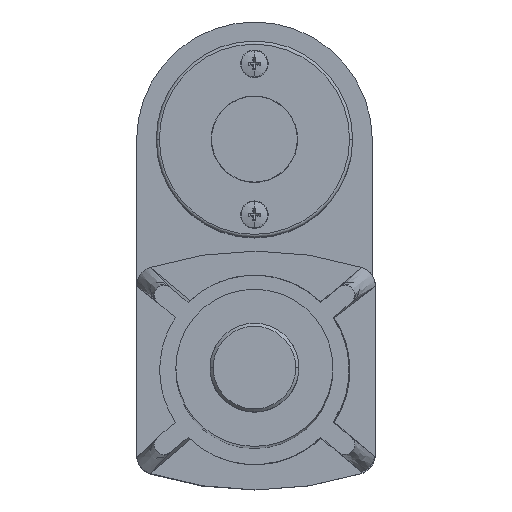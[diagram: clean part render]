
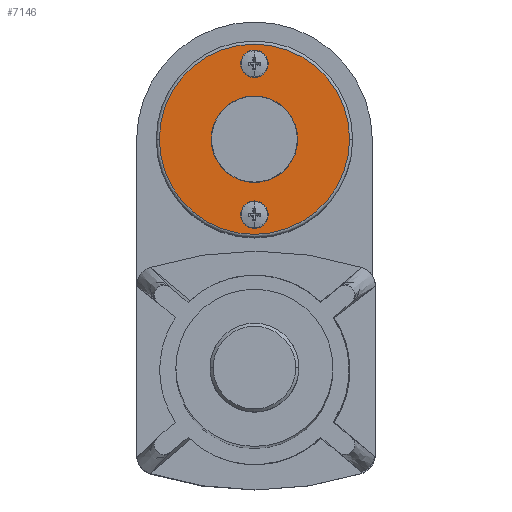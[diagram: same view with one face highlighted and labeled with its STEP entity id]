
A CAD part, top view. The second image highlights one B-rep face of the part: STEP entity #7146.
In plain terms, the highlighted planar face has unit normal (0, 0, 1).
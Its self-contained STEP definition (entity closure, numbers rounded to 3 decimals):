
#292 = EDGE_CURVE ( 'NONE', #5011, #3615, #9975, .T. ) ;
#310 = CARTESIAN_POINT ( 'NONE',  ( 38.608, -31.638, 406.098 ) ) ;
#374 = AXIS2_PLACEMENT_3D ( 'NONE', #310, #2959, #385 ) ;
#385 = DIRECTION ( 'NONE',  ( -1., 0., 0. ) ) ;
#527 = ORIENTED_EDGE ( 'NONE', *, *, #7393, .F. ) ;
#626 = DIRECTION ( 'NONE',  ( -1., 0., 0. ) ) ;
#956 = AXIS2_PLACEMENT_3D ( 'NONE', #1776, #1700, #6069 ) ;
#1001 = CARTESIAN_POINT ( 'NONE',  ( 7.858, -31.638, 406.098 ) ) ;
#1147 = EDGE_CURVE ( 'NONE', #10723, #9260, #3793, .T. ) ;
#1258 = VERTEX_POINT ( 'NONE', #10563 ) ;
#1274 = ORIENTED_EDGE ( 'NONE', *, *, #1147, .F. ) ;
#1284 = CARTESIAN_POINT ( 'NONE',  ( 36.068, -7.238, 406.098 ) ) ;
#1431 = CARTESIAN_POINT ( 'NONE',  ( 38.608, -56.038, 406.098 ) ) ;
#1460 = VERTEX_POINT ( 'NONE', #8227 ) ;
#1615 = EDGE_CURVE ( 'NONE', #1258, #1460, #8432, .T. ) ;
#1700 = DIRECTION ( 'NONE',  ( 0., 0., 1. ) ) ;
#1776 = CARTESIAN_POINT ( 'NONE',  ( 38.608, -7.238, 406.098 ) ) ;
#2070 = AXIS2_PLACEMENT_3D ( 'NONE', #1431, #5861, #626 ) ;
#2072 = AXIS2_PLACEMENT_3D ( 'NONE', #9141, #9105, #6731 ) ;
#2714 = DIRECTION ( 'NONE',  ( -1., 0., 0. ) ) ;
#2959 = DIRECTION ( 'NONE',  ( 0., 0., 1. ) ) ;
#3086 = AXIS2_PLACEMENT_3D ( 'NONE', #8682, #3414, #11200 ) ;
#3134 = FACE_BOUND ( 'NONE', #6839, .T. ) ;
#3275 = DIRECTION ( 'NONE',  ( -1., 0., 0. ) ) ;
#3414 = DIRECTION ( 'NONE',  ( 0., 0., 1. ) ) ;
#3615 = VERTEX_POINT ( 'NONE', #1001 ) ;
#3793 = CIRCLE ( 'NONE', #8970, 2.54 ) ;
#4490 = FACE_OUTER_BOUND ( 'NONE', #9161, .T. ) ;
#4751 = PLANE ( 'NONE',  #374 ) ;
#5011 = VERTEX_POINT ( 'NONE', #5601 ) ;
#5317 = EDGE_LOOP ( 'NONE', ( #527, #1274 ) ) ;
#5485 = EDGE_CURVE ( 'NONE', #1460, #1258, #5599, .T. ) ;
#5599 = CIRCLE ( 'NONE', #3086, 2.54 ) ;
#5601 = CARTESIAN_POINT ( 'NONE',  ( 69.358, -31.638, 406.098 ) ) ;
#5612 = ORIENTED_EDGE ( 'NONE', *, *, #1615, .F. ) ;
#5756 = ORIENTED_EDGE ( 'NONE', *, *, #292, .T. ) ;
#5861 = DIRECTION ( 'NONE',  ( 0., 0., 1. ) ) ;
#6069 = DIRECTION ( 'NONE',  ( -1., 0., 0. ) ) ;
#6083 = CARTESIAN_POINT ( 'NONE',  ( 38.608, -31.638, 406.098 ) ) ;
#6731 = DIRECTION ( 'NONE',  ( -1., 0., 0. ) ) ;
#6789 = ORIENTED_EDGE ( 'NONE', *, *, #10129, .T. ) ;
#6805 = CARTESIAN_POINT ( 'NONE',  ( 38.608, -7.238, 406.098 ) ) ;
#6839 = EDGE_LOOP ( 'NONE', ( #5612, #10579 ) ) ;
#7146 = ADVANCED_FACE ( 'NONE', ( #3134, #10521, #4490 ), #4751, .T. ) ;
#7393 = EDGE_CURVE ( 'NONE', #9260, #10723, #9405, .T. ) ;
#8227 = CARTESIAN_POINT ( 'NONE',  ( 41.148, -56.038, 406.098 ) ) ;
#8432 = CIRCLE ( 'NONE', #2070, 2.54 ) ;
#8682 = CARTESIAN_POINT ( 'NONE',  ( 38.608, -56.038, 406.098 ) ) ;
#8970 = AXIS2_PLACEMENT_3D ( 'NONE', #6805, #10233, #3275 ) ;
#9105 = DIRECTION ( 'NONE',  ( 0., 0., 1. ) ) ;
#9141 = CARTESIAN_POINT ( 'NONE',  ( 38.608, -31.638, 406.098 ) ) ;
#9161 = EDGE_LOOP ( 'NONE', ( #6789, #5756 ) ) ;
#9260 = VERTEX_POINT ( 'NONE', #1284 ) ;
#9321 = CARTESIAN_POINT ( 'NONE',  ( 41.148, -7.238, 406.098 ) ) ;
#9405 = CIRCLE ( 'NONE', #956, 2.54 ) ;
#9720 = DIRECTION ( 'NONE',  ( 0., 0., 1. ) ) ;
#9748 = CIRCLE ( 'NONE', #2072, 30.75 ) ;
#9975 = CIRCLE ( 'NONE', #10369, 30.75 ) ;
#10129 = EDGE_CURVE ( 'NONE', #3615, #5011, #9748, .T. ) ;
#10233 = DIRECTION ( 'NONE',  ( 0., 0., 1. ) ) ;
#10369 = AXIS2_PLACEMENT_3D ( 'NONE', #6083, #9720, #2714 ) ;
#10521 = FACE_BOUND ( 'NONE', #5317, .T. ) ;
#10563 = CARTESIAN_POINT ( 'NONE',  ( 36.068, -56.038, 406.098 ) ) ;
#10579 = ORIENTED_EDGE ( 'NONE', *, *, #5485, .F. ) ;
#10723 = VERTEX_POINT ( 'NONE', #9321 ) ;
#11200 = DIRECTION ( 'NONE',  ( -1., 0., 0. ) ) ;
